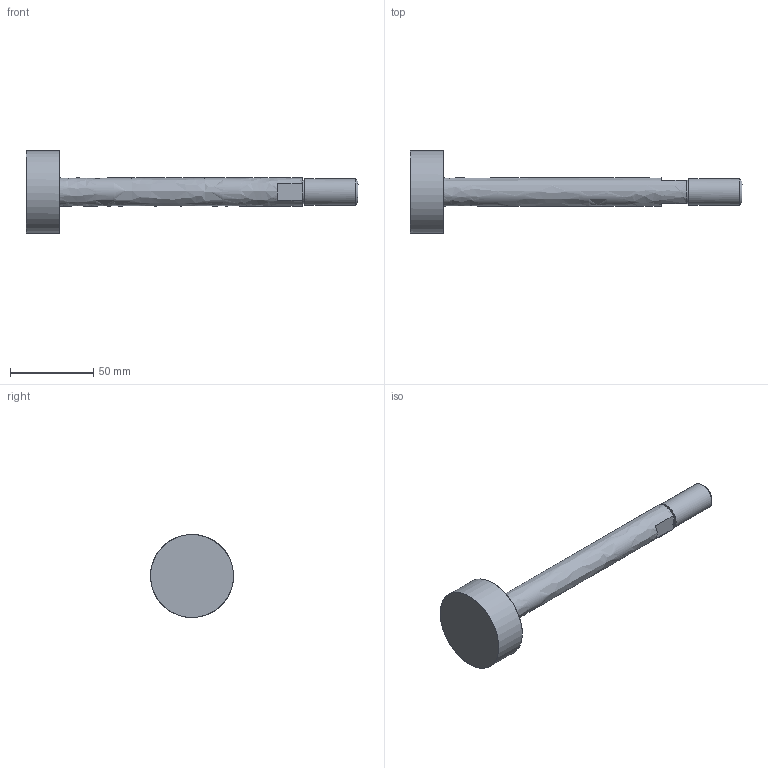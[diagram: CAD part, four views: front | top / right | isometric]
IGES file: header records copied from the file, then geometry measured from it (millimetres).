
Start section: File produced by SOLID-CONCEP (Trim Surfaces - Entity 144)
Global section: file name: Verin_tige.igs; native system: SOLID-CONCEPT V.5.xx; preprocessor: SOLID-CONCEPT-IGES-OUT v2.00; date: 100220.125840; units: millimetre
Bounding box: 200 x 50 x 50 mm (x, y, z)
Surface area: 16596 mm2 (no closed solid volume)
Topology: 0 solids, 0 shells, 15 faces, 79 edges, 71 vertices
Faces by surface type: bspline 10, revolution 5
